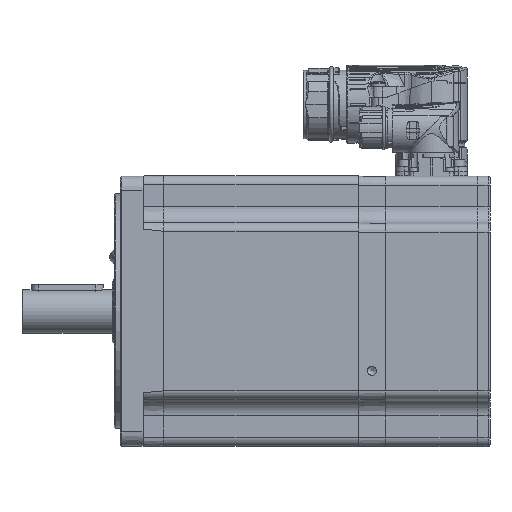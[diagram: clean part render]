
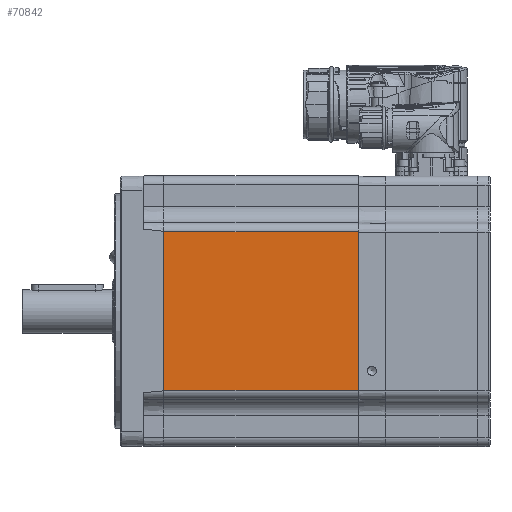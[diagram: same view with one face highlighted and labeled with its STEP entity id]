
A CAD part, left-side view. The second image highlights one B-rep face of the part: STEP entity #70842.
In plain terms, the highlighted planar face has unit normal (-1, 0, 0) as drawn and (0, -1, 0) by its records, which use the part's own axes.
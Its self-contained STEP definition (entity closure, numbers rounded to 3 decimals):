
#4108=LINE('',#144334,#6691);
#4129=LINE('',#144440,#6712);
#4132=LINE('',#144473,#6715);
#4133=LINE('',#144474,#6716);
#6691=VECTOR('',#86194,1000.);
#6712=VECTOR('',#86279,1000.);
#6715=VECTOR('',#86318,1000.);
#6716=VECTOR('',#86319,1000.);
#7897=PLANE('',#75365);
#22289=ORIENTED_EDGE('',*,*,#30392,.F.);
#22290=ORIENTED_EDGE('',*,*,#30457,.T.);
#22291=ORIENTED_EDGE('',*,*,#30444,.T.);
#22292=ORIENTED_EDGE('',*,*,#30458,.T.);
#30392=EDGE_CURVE('',#35424,#35425,#4108,.T.);
#30444=EDGE_CURVE('',#35477,#35476,#4129,.T.);
#30457=EDGE_CURVE('',#35424,#35477,#4132,.T.);
#30458=EDGE_CURVE('',#35476,#35425,#4133,.F.);
#35424=VERTEX_POINT('',#144335);
#35425=VERTEX_POINT('',#144336);
#35476=VERTEX_POINT('',#144439);
#35477=VERTEX_POINT('',#144441);
#41654=EDGE_LOOP('',(#22289,#22290,#22291,#22292));
#45590=FACE_BOUND('',#41654,.T.);
#70842=ADVANCED_FACE('',(#45590),#7897,.T.);
#75365=AXIS2_PLACEMENT_3D('',#144472,#86316,#86317);
#86194=DIRECTION('',(0.,0.,-1.));
#86279=DIRECTION('',(0.,0.,-1.));
#86316=DIRECTION('',(0.,-1.,0.));
#86317=DIRECTION('',(0.,0.,-1.));
#86318=DIRECTION('',(-1.,0.,0.));
#86319=DIRECTION('',(-1.,0.,0.));
#144334=CARTESIAN_POINT('',(-1.,-75.,75.));
#144335=CARTESIAN_POINT('',(-1.,-75.,44.));
#144336=CARTESIAN_POINT('',(-1.,-75.,-44.));
#144439=CARTESIAN_POINT('',(-109.,-75.,-44.));
#144440=CARTESIAN_POINT('',(-109.,-75.,75.));
#144441=CARTESIAN_POINT('',(-109.,-75.,44.));
#144472=CARTESIAN_POINT('',(-300.,-75.,75.));
#144473=CARTESIAN_POINT('',(-300.,-75.,44.));
#144474=CARTESIAN_POINT('',(0.,-75.,-44.));
